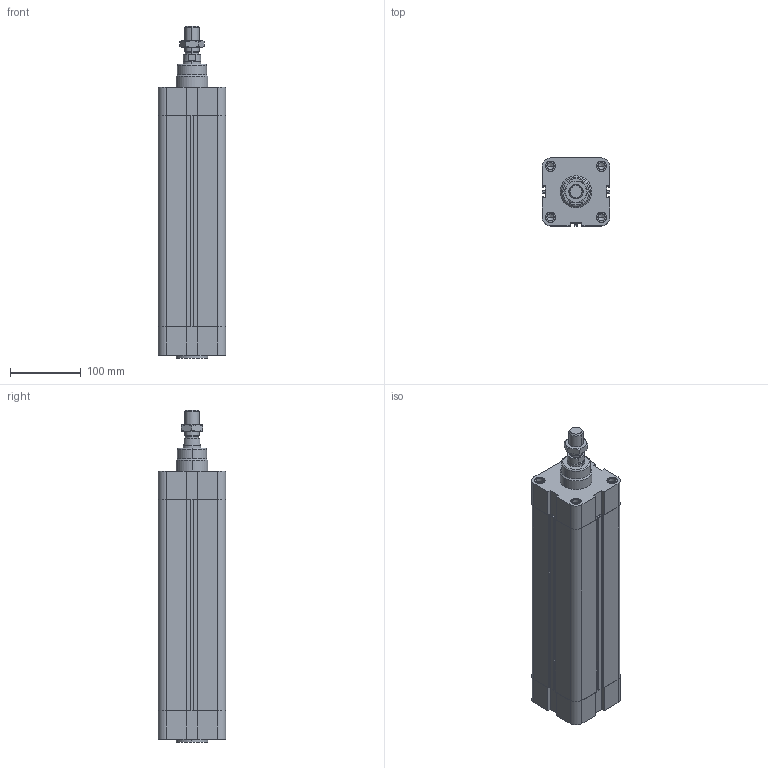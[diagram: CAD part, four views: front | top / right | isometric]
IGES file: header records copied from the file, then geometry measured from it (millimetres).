
Global section: file name: No Iges File Name specified; native system: Autodesk Inventor 2010; preprocessor: AutoDesk Inventor Iges Exporter R2010; author: rivolro1; date: 20090707.103434; units: millimetre
Bounding box: 95.5 x 95.5 x 468 mm (x, y, z)
Volume: 2254578.5 mm3; surface area: 351677.5 mm2
Topology: 5 solids, 5 shells, 290 faces, 694 edges, 440 vertices
Faces by surface type: plane 120, bspline 74, cylinder 40, revolution 34, cone 20, torus 2
